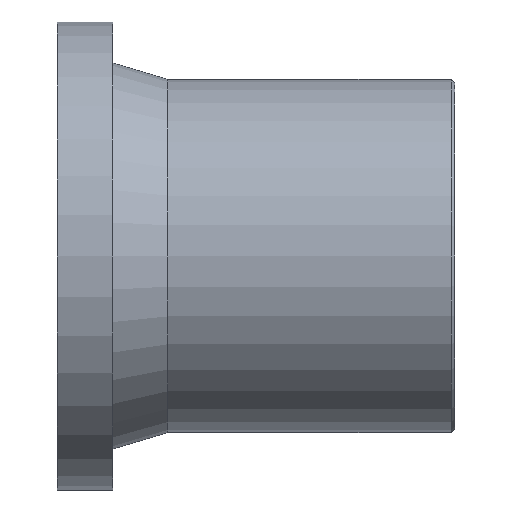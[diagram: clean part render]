
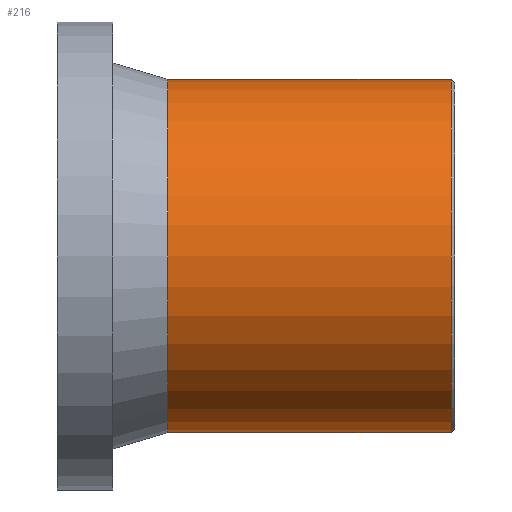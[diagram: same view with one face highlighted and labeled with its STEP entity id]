
A CAD part, front view. The second image highlights one B-rep face of the part: STEP entity #216.
In plain terms, the highlighted cylindrical face has radius 80 mm (diameter 160 mm), a full revolution.
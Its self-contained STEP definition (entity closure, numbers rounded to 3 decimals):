
#24=CYLINDRICAL_SURFACE('',#240,80.);
#34=FACE_BOUND('',#76,.T.);
#54=FACE_OUTER_BOUND('',#75,.T.);
#75=EDGE_LOOP('',(#175));
#76=EDGE_LOOP('',(#176));
#113=CIRCLE('',#238,80.);
#115=CIRCLE('',#241,80.);
#133=VERTEX_POINT('',#361);
#135=VERTEX_POINT('',#366);
#153=EDGE_CURVE('',#133,#133,#113,.T.);
#155=EDGE_CURVE('',#135,#135,#115,.T.);
#175=ORIENTED_EDGE('',*,*,#155,.T.);
#176=ORIENTED_EDGE('',*,*,#153,.F.);
#216=ADVANCED_FACE('',(#54,#34),#24,.T.);
#238=AXIS2_PLACEMENT_3D('',#362,#281,#282);
#240=AXIS2_PLACEMENT_3D('',#365,#285,#286);
#241=AXIS2_PLACEMENT_3D('',#367,#287,#288);
#281=DIRECTION('center_axis',(1.,0.,0.));
#282=DIRECTION('ref_axis',(0.,-1.,0.));
#285=DIRECTION('center_axis',(1.,0.,0.));
#286=DIRECTION('ref_axis',(0.,1.,0.));
#287=DIRECTION('center_axis',(1.,0.,0.));
#288=DIRECTION('ref_axis',(0.,0.,-1.));
#361=CARTESIAN_POINT('',(-1.6,80.,0.));
#362=CARTESIAN_POINT('Origin',(-1.6,0.,
0.));
#365=CARTESIAN_POINT('Origin',(-65.,0.,0.));
#366=CARTESIAN_POINT('',(-130.,80.,0.));
#367=CARTESIAN_POINT('Origin',(-130.,0.,0.));
